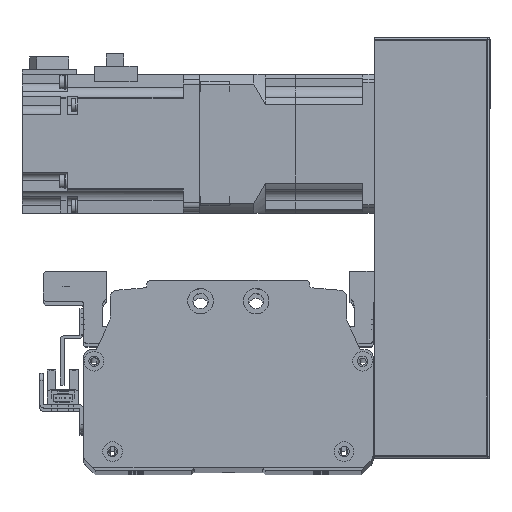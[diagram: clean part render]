
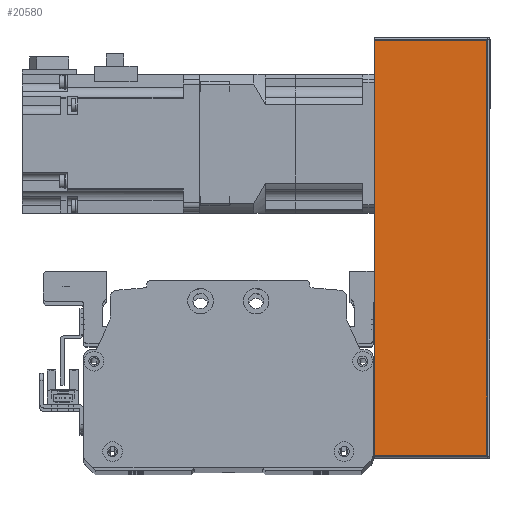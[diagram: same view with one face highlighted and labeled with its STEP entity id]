
A CAD part, top view. The second image highlights one B-rep face of the part: STEP entity #20580.
In plain terms, the highlighted planar face has unit normal (0, 0, 1) as drawn and (0, -1, 0) by its records, which use the part's own axes.
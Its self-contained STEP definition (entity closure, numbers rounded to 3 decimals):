
#563=PLANE('',#22583);
#1778=LINE('',#33552,#3402);
#1792=LINE('',#33604,#3416);
#1794=LINE('',#33612,#3418);
#1795=LINE('',#33614,#3419);
#3402=VECTOR('',#27265,10.);
#3416=VECTOR('',#27325,10.);
#3418=VECTOR('',#27339,10.);
#3419=VECTOR('',#27342,10.);
#5800=FACE_OUTER_BOUND('',#7264,.T.);
#7264=EDGE_LOOP('',(#17112,#17113,#17114,#17115));
#10140=VERTEX_POINT('',#33549);
#10141=VERTEX_POINT('',#33551);
#10155=VERTEX_POINT('',#33599);
#10156=VERTEX_POINT('',#33602);
#12588=EDGE_CURVE('',#10141,#10140,#1778,.T.);
#12616=EDGE_CURVE('',#10155,#10156,#1792,.T.);
#12620=EDGE_CURVE('',#10156,#10141,#1794,.T.);
#12621=EDGE_CURVE('',#10140,#10155,#1795,.T.);
#17112=ORIENTED_EDGE('',*,*,#12616,.T.);
#17113=ORIENTED_EDGE('',*,*,#12620,.T.);
#17114=ORIENTED_EDGE('',*,*,#12588,.T.);
#17115=ORIENTED_EDGE('',*,*,#12621,.T.);
#20580=ADVANCED_FACE('',(#5800),#563,.F.);
#22583=AXIS2_PLACEMENT_3D('',#33613,#27340,#27341);
#27265=DIRECTION('',(1.,0.,0.));
#27325=DIRECTION('',(-1.,0.,0.));
#27339=DIRECTION('',(0.,0.,-1.));
#27340=DIRECTION('center_axis',(0.,1.,0.));
#27341=DIRECTION('ref_axis',(1.,0.,0.));
#27342=DIRECTION('',(0.,0.,1.));
#33549=CARTESIAN_POINT('',(90.,-38.,-25.));
#33551=CARTESIAN_POINT('',(-90.,-38.,-25.));
#33552=CARTESIAN_POINT('',(91.,-38.,-25.));
#33599=CARTESIAN_POINT('',(90.,-38.,24.));
#33602=CARTESIAN_POINT('',(-90.,-38.,24.));
#33604=CARTESIAN_POINT('',(-45.5,-38.,24.));
#33612=CARTESIAN_POINT('',(-90.,-38.,0.));
#33613=CARTESIAN_POINT('Origin',(-91.,-38.,0.));
#33614=CARTESIAN_POINT('',(90.,-38.,0.));
